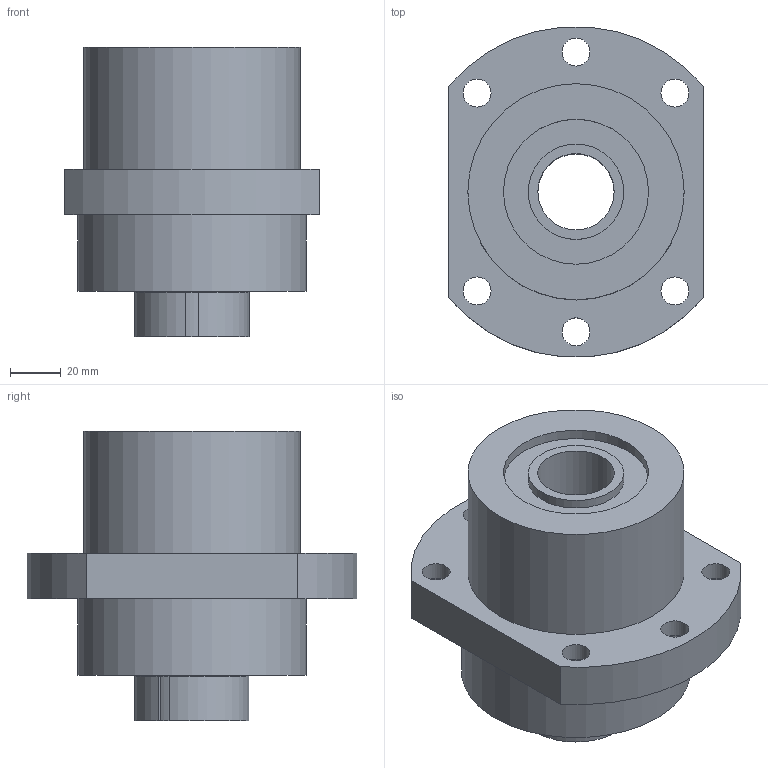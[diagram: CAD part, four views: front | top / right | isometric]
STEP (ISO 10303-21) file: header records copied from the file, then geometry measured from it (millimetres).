
FILE_DESCRIPTION(/* description */ (''),/* implementation_level */ '2;1');
FILE_NAME(/* name */ 'C:\Users\tenki620635\Desktop\官網\圖面\軸承座\3D\setp檔\WBK30 DFF.stp',/* time_stamp */ '2020-12-21T10:00:49+08:00',/* author */ ('tenki620635'),/* organization */ (''),/* preprocessor_version */ 'ST-DEVELOPER v15.2',/* originating_system */ 'Autodesk Inventor 2014',/* authorisation */ '');
FILE_SCHEMA (('AUTOMOTIVE_DESIGN { 1 0 10303 214 3 1 1 }'));
Length unit declared in the file: millimetre
Products named in the file (1): WBK30 DFF-Atype
Bounding box: 100 x 129.59 x 114 mm (x, y, z)
Volume: 587225.1 mm3; surface area: 70756.9 mm2
Topology: 1 solids, 1 shells, 52 faces, 108 edges, 72 vertices
Faces by surface type: cylinder 28, plane 24
Full cylindrical faces by diameter (mm): 11 x6, 17.5 x6, 30 x1, 37.5 x2, 40 x1, 57 x2, 85 x1, 90 x1
Entity records: 1357 total; most frequent: DIRECTION 250, CARTESIAN_POINT 213, ORIENTED_EDGE 176, AXIS2_PLACEMENT_3D 109, EDGE_LOOP 100, EDGE_CURVE 88, VERTEX_POINT 72, CIRCLE 56
